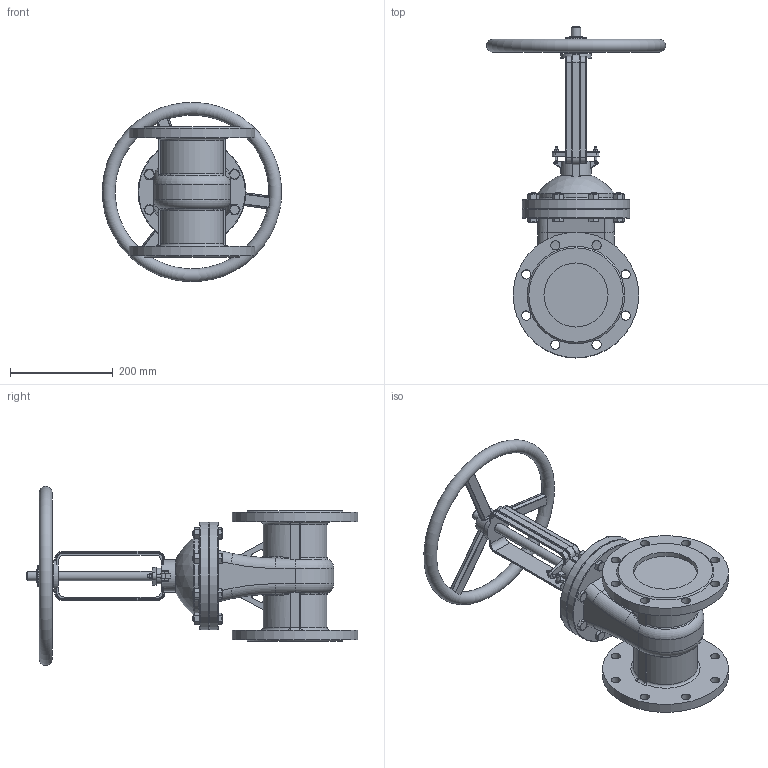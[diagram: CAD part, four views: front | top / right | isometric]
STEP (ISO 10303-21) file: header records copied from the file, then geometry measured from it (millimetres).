
FILE_DESCRIPTION(('STEP AP242'), '1');
FILE_NAME('GVWR2626M-2W-F-S Çàäâèæêà êëèíîâàÿ ñ âûäâèæíûì øòîêîì DN.ru Äó125 Ðó16', '', ('UNSPECIFIED'), ('UNSPECIFIED'), 'C3D Converter', 'C3D Toolkit', '');
FILE_SCHEMA(('AP242_MANAGED_MODEL_BASED_3D_ENGINEERING_MIM_LF { 1 0 10303 442 1 1 4 }'));
Length unit declared in the file: millimetre
Products named in the file (1): GVWR2626M-2W-F-S
Bounding box: 349.43 x 647.5 x 349.33 mm (x, y, z)
Volume: 8533998 mm3; surface area: 652527.2 mm2
Topology: 1 solids, 1 shells, 718 faces, 1810 edges, 1136 vertices
Faces by surface type: plane 312, cylinder 194, torus 77, bspline 69, cone 65, sphere 1
Full cylindrical faces by diameter (mm): 3 x3, 5 x4, 8 x2, 12 x16, 18 x18, 20 x1, 25 x1, 30 x1, 40 x2, 50 x1, 60 x1, 125 x2, 150 x2, 210 x2, 245 x2
Entity records: 45342 total; most frequent: CARTESIAN_POINT 23995, ORIENTED_EDGE 3402, DIRECTION 3008, EDGE_CURVE 1701, AXIS2_PLACEMENT_3D 1191, VERTEX_POINT 1131, EDGE_LOOP 934, FACE_BOUND 781
